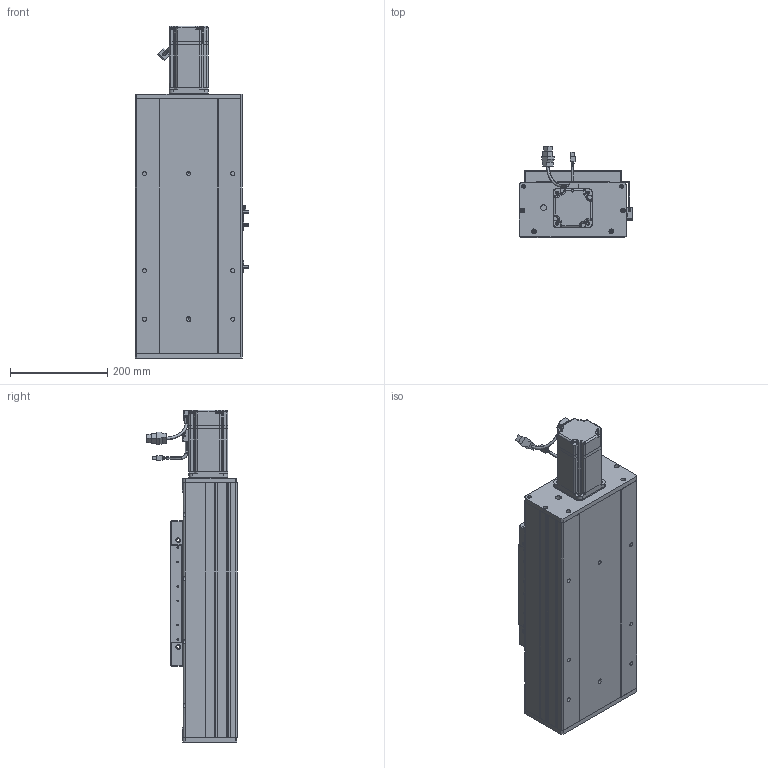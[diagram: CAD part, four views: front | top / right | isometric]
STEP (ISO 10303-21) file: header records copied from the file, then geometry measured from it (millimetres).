
FILE_DESCRIPTION (( 'STEP AP203' ), '1' );
FILE_NAME ('RY220F-L2525-300-MK.SLDASM_100.step', '2022-07-04T01:03:04', ( '' ), ( '' ), 'SwSTEP 2.0', 'SolidWorks 2016', '' );
FILE_SCHEMA (( 'CONFIG_CONTROL_DESIGN' ));
Length unit declared in the file: millimetre
Products named in the file (15): 怢湛750W_ECMA-CX0807ES; RY220电机支撑座FK20（PCD90M6）; RY220F綴裔啣; RY220F-滅鳥奻裔; RY220Fヶ裔啣; RY220F臏賑釱25-32佪裝; 覜茼ん672; RY220F菁釱MK-300_100; RY220F-L2525-300-MK.SLDASM_100; RY220F-672覜茼んえ; RY220F-詩湍揤踡輸; 滅袉蝶18-20; RY220F-奻裔啣-300_100; 滅袉蝶18-24; RY220F-祥凄詩湍-MK-300_100
Assembly tree (20 placements, depth 2):
  RY220F-L2525-300-MK.SLDASM_100
    RY220F菁釱MK-300_100
    RY220电机支撑座FK20（PCD90M6）
    RY220F-奻裔啣-300_100  x2
    怢湛750W_ECMA-CX0807ES
    RY220F臏賑釱25-32佪裝
    RY220F-滅鳥奻裔
    滅袉蝶18-20
    滅袉蝶18-24  x3
    RY220Fヶ裔啣
    RY220F綴裔啣
    RY220F-祥凄詩湍-MK-300_100
    RY220F-詩湍揤踡輸  x2
    覜茼ん672  x3
    RY220F-672覜茼んえ
Bounding box: 233.7 x 187.27 x 684.3 mm (x, y, z)
Volume: 7098773.7 mm3; surface area: 1642530.3 mm2
Topology: 21 solids, 21 shells, 2104 faces, 5798 edges, 3658 vertices
Faces by surface type: cylinder 932, plane 874, cone 239, bspline 33, sphere 16, torus 10
Entity records: 64814 total; most frequent: CARTESIAN_POINT 17821, ORIENTED_EDGE 9594, DIRECTION 9172, EDGE_CURVE 4797, AXIS2_PLACEMENT_3D 3228, VERTEX_POINT 3124, LINE 2716, VECTOR 2716
